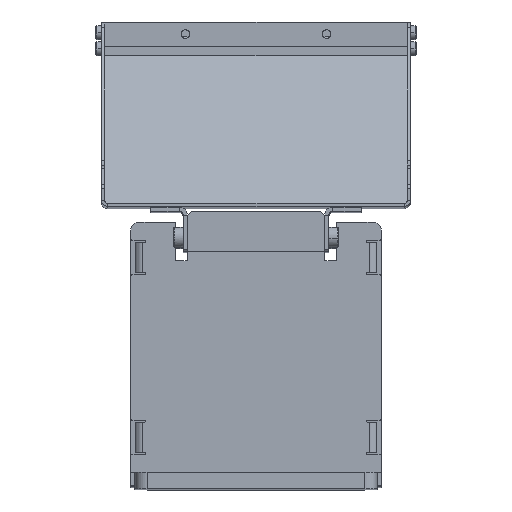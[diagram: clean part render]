
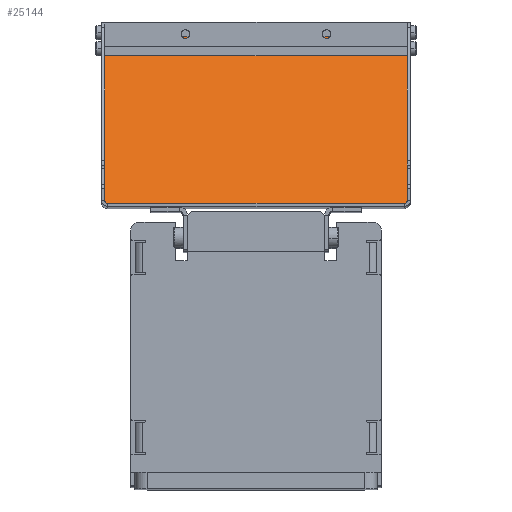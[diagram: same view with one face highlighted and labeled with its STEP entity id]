
A CAD part, top view. The second image highlights one B-rep face of the part: STEP entity #25144.
In plain terms, the highlighted planar face has unit normal (0, 0.5, 0.866) as drawn and (0, 0.5, -0.866) by its records, which use the part's own axes.
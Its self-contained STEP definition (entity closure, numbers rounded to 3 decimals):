
#993 = B_SPLINE_CURVE_WITH_KNOTS ( 'NONE', 3,
 ( #11732, #9640, #22102, #9024, #27079, #27243, #20006 ),
 .UNSPECIFIED., .F., .F.,
 ( 4, 1, 1, 1, 4 ),
 ( 0., 0.262, 0.514, 0.759, 1. ),
 .UNSPECIFIED. ) ;
#1194 = LINE ( 'NONE', #21579, #27332 ) ;
#1268 = EDGE_LOOP ( 'NONE', ( #7893, #9499, #23379, #8118, #32945, #5135 ) ) ;
#1305 = CARTESIAN_POINT ( 'NONE',  ( 74.929, 1.5, 651.732 ) ) ;
#1772 = LINE ( 'NONE', #11930, #21854 ) ;
#3568 = EDGE_CURVE ( 'NONE', #20224, #5527, #33293, .T. ) ;
#3647 = CARTESIAN_POINT ( 'NONE',  ( 0., -281.458, 488.366 ) ) ;
#4914 = CARTESIAN_POINT ( 'NONE',  ( 74.929, 1.5, 651.732 ) ) ;
#5135 = ORIENTED_EDGE ( 'NONE', *, *, #27353, .T. ) ;
#5234 = VERTEX_POINT ( 'NONE', #9923 ) ;
#5527 = VERTEX_POINT ( 'NONE', #30792 ) ;
#7364 = EDGE_CURVE ( 'NONE', #30731, #28293, #27030, .T. ) ;
#7893 = ORIENTED_EDGE ( 'NONE', *, *, #25749, .F. ) ;
#8118 = ORIENTED_EDGE ( 'NONE', *, *, #3568, .F. ) ;
#9024 = CARTESIAN_POINT ( 'NONE',  ( -74.878, 1.122, 651.514 ) ) ;
#9499 = ORIENTED_EDGE ( 'NONE', *, *, #7364, .F. ) ;
#9640 = CARTESIAN_POINT ( 'NONE',  ( -74.749, 0.812, 651.335 ) ) ;
#9923 = CARTESIAN_POINT ( 'NONE',  ( -74.929, 1.5, 651.732 ) ) ;
#11022 = VERTEX_POINT ( 'NONE', #32679 ) ;
#11201 = EDGE_CURVE ( 'NONE', #20224, #5234, #993, .T. ) ;
#11426 = DIRECTION ( 'NONE',  ( 0., 0.866, 0.5 ) ) ;
#11608 = B_SPLINE_CURVE_WITH_KNOTS ( 'NONE', 3,
 ( #11646, #17414, #14188, #32383, #32543, #22182, #1305 ),
 .UNSPECIFIED., .F., .F.,
 ( 4, 1, 1, 1, 4 ),
 ( 0., 0.262, 0.514, 0.759, 1. ),
 .UNSPECIFIED. ) ;
#11646 = CARTESIAN_POINT ( 'NONE',  ( 74.717, 0.75, 651.299 ) ) ;
#11732 = CARTESIAN_POINT ( 'NONE',  ( -74.717, 0.75, 651.299 ) ) ;
#11930 = CARTESIAN_POINT ( 'NONE',  ( -74.929, 0.75, 651.299 ) ) ;
#13728 = AXIS2_PLACEMENT_3D ( 'NONE', #3647, #24341, #11426 ) ;
#13969 = FACE_OUTER_BOUND ( 'NONE', #1268, .T. ) ;
#14188 = CARTESIAN_POINT ( 'NONE',  ( 74.812, 0.934, 651.405 ) ) ;
#15412 = CARTESIAN_POINT ( 'NONE',  ( -73.5, 0.75, 651.299 ) ) ;
#15685 = EDGE_CURVE ( 'NONE', #5527, #30731, #11608, .T. ) ;
#16762 = DIRECTION ( 'NONE',  ( 0., 0.866, 0.5 ) ) ;
#17414 = CARTESIAN_POINT ( 'NONE',  ( 74.749, 0.812, 651.335 ) ) ;
#17697 = CARTESIAN_POINT ( 'NONE',  ( 74.929, 90., 702.828 ) ) ;
#20006 = CARTESIAN_POINT ( 'NONE',  ( -74.929, 1.5, 651.732 ) ) ;
#20224 = VERTEX_POINT ( 'NONE', #26268 ) ;
#21579 = CARTESIAN_POINT ( 'NONE',  ( -73.5, 90., 702.828 ) ) ;
#21621 = PLANE ( 'NONE',  #13728 ) ;
#21854 = VECTOR ( 'NONE', #33005, 1000. ) ;
#22047 = CARTESIAN_POINT ( 'NONE',  ( 74.929, 0.75, 651.299 ) ) ;
#22102 = CARTESIAN_POINT ( 'NONE',  ( -74.812, 0.934, 651.405 ) ) ;
#22182 = CARTESIAN_POINT ( 'NONE',  ( 74.927, 1.437, 651.696 ) ) ;
#22745 = DIRECTION ( 'NONE',  ( 1., 0., 0. ) ) ;
#23379 = ORIENTED_EDGE ( 'NONE', *, *, #15685, .F. ) ;
#24341 = DIRECTION ( 'NONE',  ( 0., 0.5, -0.866 ) ) ;
#24350 = VECTOR ( 'NONE', #22745, 1000. ) ;
#25144 = ADVANCED_FACE ( 'NONE', ( #13969 ), #21621, .T. ) ;
#25749 = EDGE_CURVE ( 'NONE', #28293, #11022, #1194, .T. ) ;
#26268 = CARTESIAN_POINT ( 'NONE',  ( -74.717, 0.75, 651.299 ) ) ;
#27030 = LINE ( 'NONE', #22047, #29342 ) ;
#27079 = CARTESIAN_POINT ( 'NONE',  ( -74.921, 1.311, 651.623 ) ) ;
#27243 = CARTESIAN_POINT ( 'NONE',  ( -74.927, 1.437, 651.696 ) ) ;
#27332 = VECTOR ( 'NONE', #31931, 1000. ) ;
#27353 = EDGE_CURVE ( 'NONE', #5234, #11022, #1772, .T. ) ;
#28293 = VERTEX_POINT ( 'NONE', #17697 ) ;
#29342 = VECTOR ( 'NONE', #16762, 1000. ) ;
#30731 = VERTEX_POINT ( 'NONE', #4914 ) ;
#30792 = CARTESIAN_POINT ( 'NONE',  ( 74.717, 0.75, 651.299 ) ) ;
#31931 = DIRECTION ( 'NONE',  ( -1., 0., 0. ) ) ;
#32383 = CARTESIAN_POINT ( 'NONE',  ( 74.878, 1.122, 651.514 ) ) ;
#32543 = CARTESIAN_POINT ( 'NONE',  ( 74.921, 1.311, 651.623 ) ) ;
#32679 = CARTESIAN_POINT ( 'NONE',  ( -74.929, 90., 702.828 ) ) ;
#32945 = ORIENTED_EDGE ( 'NONE', *, *, #11201, .T. ) ;
#33005 = DIRECTION ( 'NONE',  ( 0., 0.866, 0.5 ) ) ;
#33293 = LINE ( 'NONE', #15412, #24350 ) ;
